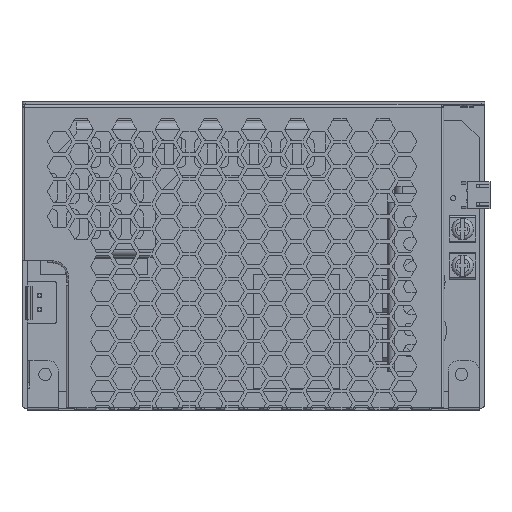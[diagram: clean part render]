
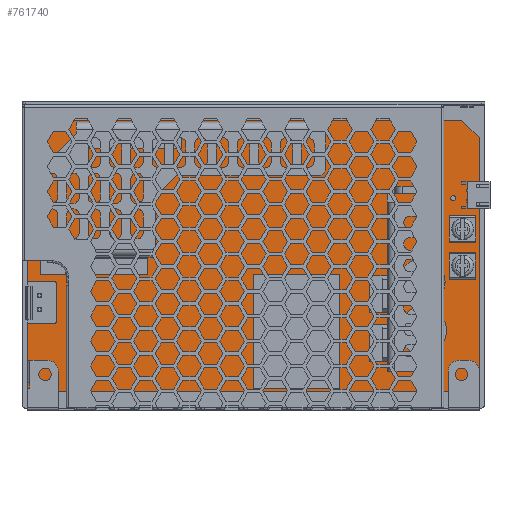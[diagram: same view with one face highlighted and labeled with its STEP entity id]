
A CAD part, top view. The second image highlights one B-rep face of the part: STEP entity #761740.
In plain terms, the highlighted planar face has unit normal (0, 0, 1).
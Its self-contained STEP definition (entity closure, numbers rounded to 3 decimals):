
#761270=CARTESIAN_POINT('',(0.,0.,0.));
#761280=DIRECTION('',(0.,0.,1.));
#761290=DIRECTION('',(1.,0.,0.));
#761300=AXIS2_PLACEMENT_3D('',#761270,#761280,#761290);
#761310=PLANE('',#761300);
#761320=CARTESIAN_POINT('',(46.25,126.45,0.));
#761330=DIRECTION('',(1.,0.,0.));
#761340=VECTOR('',#761330,0.039);
#761350=LINE('',#761320,#761340);
#761360=CARTESIAN_POINT('',(46.25,126.45,0.));
#761370=VERTEX_POINT('',#761360);
#761380=CARTESIAN_POINT('',(168.25,126.45,0.));
#761390=VERTEX_POINT('',#761380);
#761400=EDGE_CURVE('',#761370,#761390,#761350,.T.);
#761410=ORIENTED_EDGE('',*,*,#761400,.F.);
#761420=CARTESIAN_POINT('',(294.7,0.,0.));
#761430=DIRECTION('',(0.707,-0.707,0.));
#761440=VECTOR('',#761430,1.);
#761450=LINE('',#761420,#761440);
#761460=CARTESIAN_POINT('',(173.25,121.45,0.));
#761470=VERTEX_POINT('',#761460);
#761480=EDGE_CURVE('',#761390,#761470,#761450,.T.);
#761490=ORIENTED_EDGE('',*,*,#761480,.F.);
#761500=CARTESIAN_POINT('',(173.25,0.,0.));
#761510=DIRECTION('',(0.,-1.,0.));
#761520=VECTOR('',#761510,1.);
#761530=LINE('',#761500,#761520);
#761540=CARTESIAN_POINT('',(173.25,50.25,0.));
#761550=VERTEX_POINT('',#761540);
#761560=EDGE_CURVE('',#761470,#761550,#761530,.T.);
#761570=ORIENTED_EDGE('',*,*,#761560,.F.);
#761580=CARTESIAN_POINT('',(46.25,50.25,0.));
#761590=DIRECTION('',(1.,0.,0.));
#761600=VECTOR('',#761590,0.039);
#761610=LINE('',#761580,#761600);
#761620=CARTESIAN_POINT('',(46.25,50.25,0.));
#761630=VERTEX_POINT('',#761620);
#761640=EDGE_CURVE('',#761630,#761550,#761610,.T.);
#761650=ORIENTED_EDGE('',*,*,#761640,.T.);
#761660=CARTESIAN_POINT('',(46.25,50.25,0.));
#761670=DIRECTION('',(0.,1.,0.));
#761680=VECTOR('',#761670,0.039);
#761690=LINE('',#761660,#761680);
#761700=EDGE_CURVE('',#761630,#761370,#761690,.T.);
#761710=ORIENTED_EDGE('',*,*,#761700,.F.);
#761720=EDGE_LOOP('',(#761710,#761650,#761570,#761490,#761410));
#761730=FACE_OUTER_BOUND('',#761720,.T.);
#761740=ADVANCED_FACE('',(#761730),#761310,.T.);
